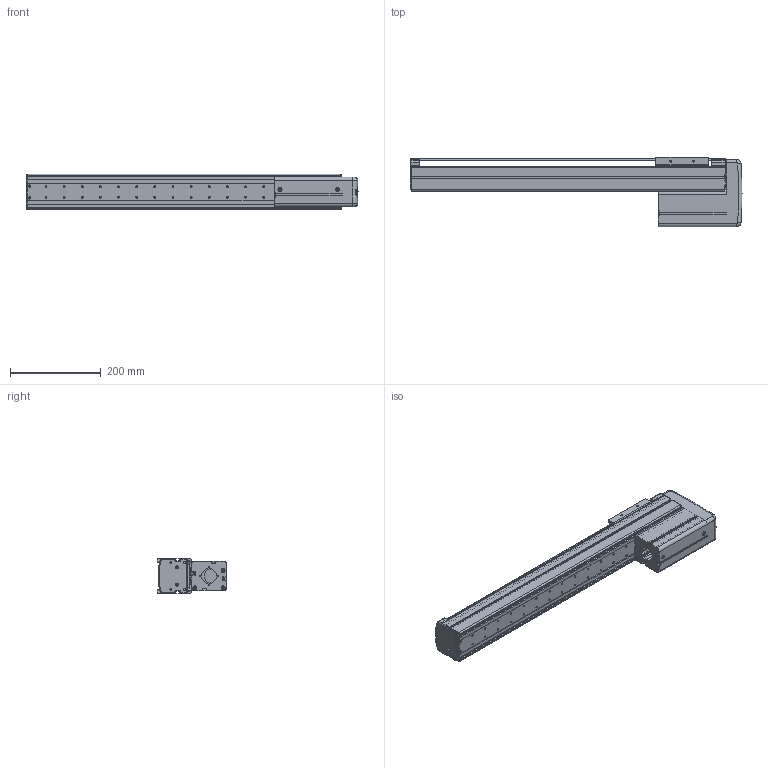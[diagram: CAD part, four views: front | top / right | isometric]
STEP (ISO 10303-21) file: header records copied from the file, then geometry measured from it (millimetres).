
FILE_DESCRIPTION((''),'2;1');
FILE_NAME('BE10E-UU-M_N-50_IGS_PRT','2017-06-17T',(' '),(''),'PRO/ENGINEER BY PARAMETRIC TECHNOLOGY CORPORATION, 2015030','PRO/ENGINEER BY PARAMETRIC TECHNOLOGY CORPORATION, 2015030','');
FILE_SCHEMA(('CONFIG_CONTROL_DESIGN'));
Length unit declared in the file: millimetre
Products named in the file (1): BE10E-UU-M_N-50_IGS_PRT
Bounding box: 732 x 153 x 78 mm (x, y, z)
Volume: 1145877.4 mm3; surface area: 781133.6 mm2
Topology: 2 solids, 109 shells, 1776 faces, 4798 edges, 3108 vertices
Faces by surface type: cylinder 841, plane 707, cone 81, torus 71, sphere 44, bspline 32
Entity records: 58034 total; most frequent: CARTESIAN_POINT 12253, DIRECTION 9924, ORIENTED_EDGE 9118, EDGE_CURVE 4762, AXIS2_PLACEMENT_3D 3689, VERTEX_POINT 3108, VECTOR 2546, LINE 2546
